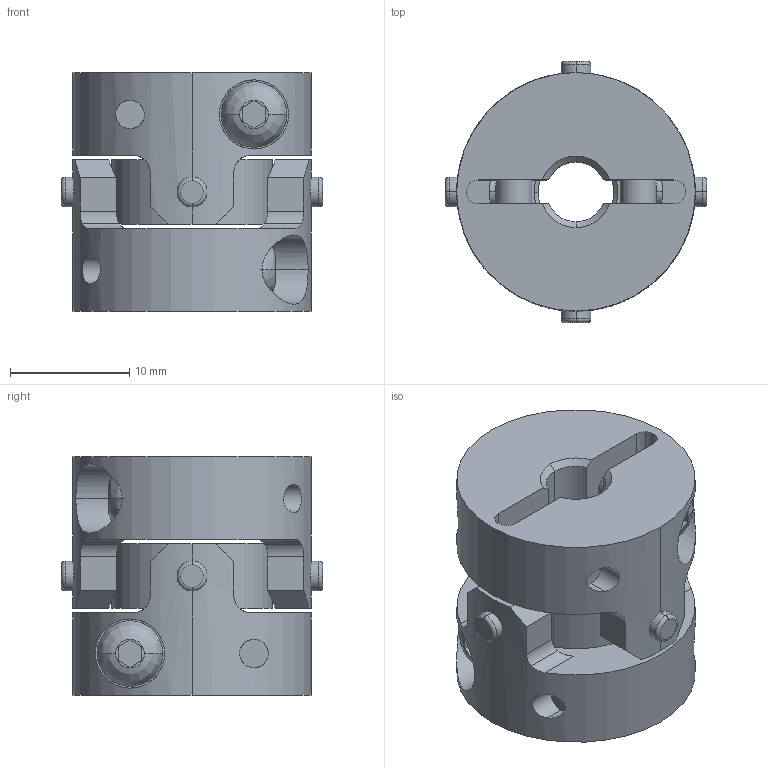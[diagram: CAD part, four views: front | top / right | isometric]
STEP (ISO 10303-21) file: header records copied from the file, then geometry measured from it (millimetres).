
FILE_DESCRIPTION((''),'2;1');
FILE_NAME('UA-20C-5×6.35.stp','2013-11-12T14:09:38',(''),(''),'AutoCAD STEP 2000i','AutoCAD 2000i',', , ');
FILE_SCHEMA(('CONFIG_CONTROL_DESIGN'));
Length unit declared in the file: millimetre
Products named in the file (6): UA-20C-4×4; 忣兜1; UA-2002-D04-1; BTN-M3; UA-2002-D04; UA20-SEN
Assembly tree (6 placements, depth 3):
  UA-20C-4×4
    忣兜1
    UA-2002-D04-1
      BTN-M3
    UA-2002-D04
      BTN-M3
    UA20-SEN
Bounding box: 21.89 x 21.89 x 20 mm (x, y, z)
Volume: 4471.8 mm3; surface area: 3861.5 mm2
Topology: 1 solids, 1 shells, 206 faces, 554 edges, 364 vertices
Faces by surface type: cylinder 96, plane 78, cone 16, bspline 8, torus 8
Entity records: 8011 total; most frequent: CARTESIAN_POINT 2695, ORIENTED_EDGE 1108, DIRECTION 1064, EDGE_CURVE 554, AXIS2_PLACEMENT_3D 409, VERTEX_POINT 364, VECTOR 246, LINE 246
